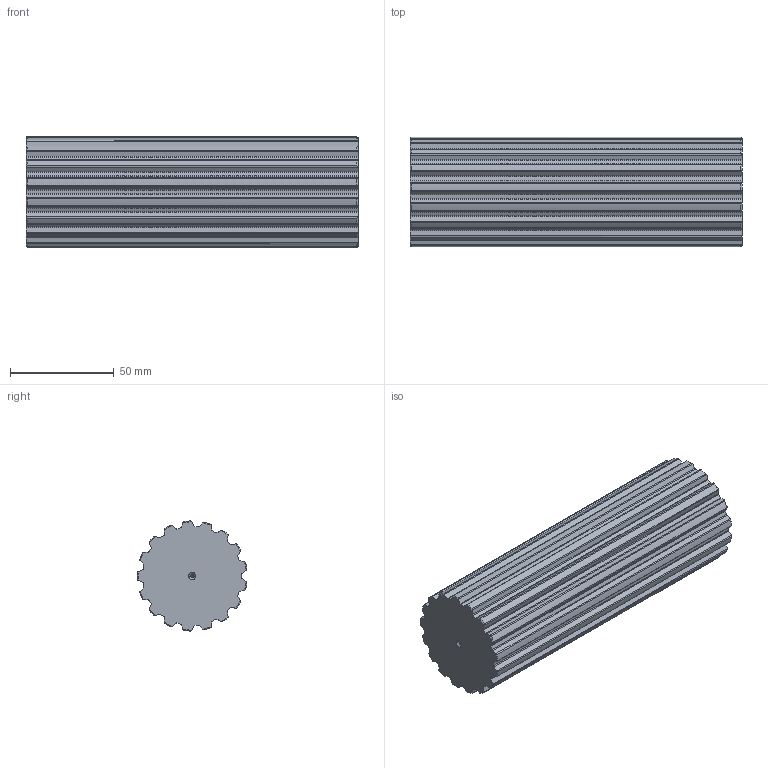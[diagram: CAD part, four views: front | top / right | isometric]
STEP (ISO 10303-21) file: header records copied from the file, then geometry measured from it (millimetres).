
FILE_DESCRIPTION(('STEP AP203'),'1');
FILE_NAME('barat_17.stp','2022-04-12T13:18:14',('TraceParts'),('TraceParts S.A.'),'Spatial InterOp 3D',' ',' ');
FILE_SCHEMA(('CONFIG_CONTROL_DESIGN'));
Length unit declared in the file: millimetre
Products named in the file (1): 1
Bounding box: 160 x 52.91 x 53.08 mm (x, y, z)
Volume: 323220.6 mm3; surface area: 37210 mm2
Topology: 1 solids, 1 shells, 186 faces, 544 edges, 358 vertices
Faces by surface type: cylinder 106, cone 44, plane 36
Entity records: 6498 total; most frequent: CARTESIAN_POINT 1697, ORIENTED_EDGE 1080, DIRECTION 964, EDGE_CURVE 540, AXIS2_PLACEMENT_3D 373, VERTEX_POINT 358, LINE 218, VECTOR 218
